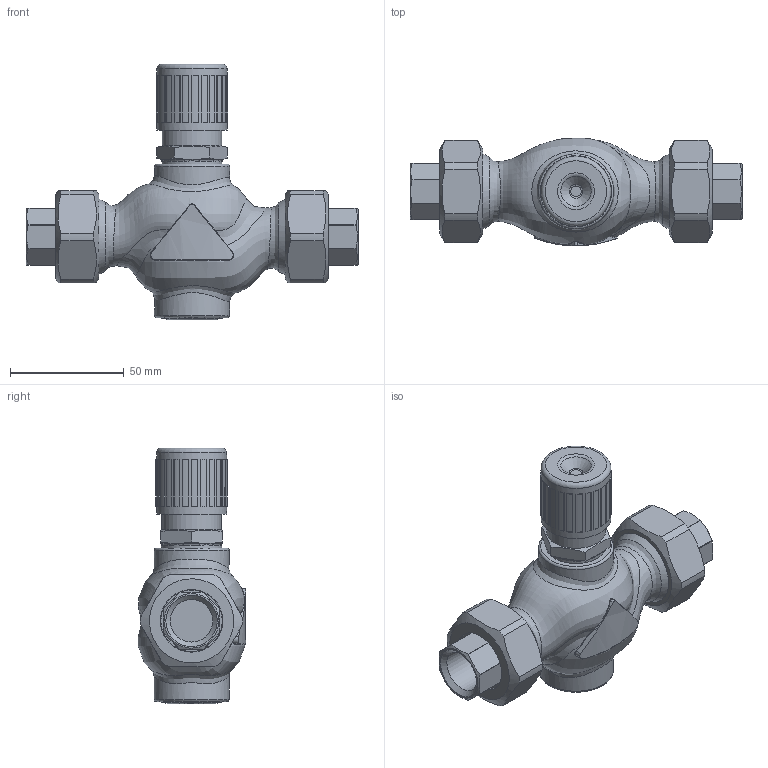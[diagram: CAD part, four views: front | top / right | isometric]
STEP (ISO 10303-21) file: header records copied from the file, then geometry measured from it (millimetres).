
FILE_DESCRIPTION(/* description */ (''),/* implementation_level */ '2;1');
FILE_NAME(/* name */ 'rv111r_dn15_2_T.stp',/* time_stamp */ '2012-02-21T10:52:44+01:00',/* author */ ('KLIMES'),/* organization */ ('LDM'),/* preprocessor_version */ 'ST-DEVELOPER v11',/* originating_system */ 'SIEMENS PLM Software NX 7.0',/* authorisation */ '');
FILE_SCHEMA (('CONFIG_CONTROL_DESIGN'));
Length unit declared in the file: millimetre
Products named in the file (1): klim56BEqbes
Bounding box: 146 x 47.4 x 112.45 mm (x, y, z)
Volume: 207073.5 mm3; surface area: 47398.8 mm2
Topology: 8 solids, 8 shells, 313 faces, 743 edges, 483 vertices
Faces by surface type: plane 180, cone 49, cylinder 43, bspline 27, torus 14
Full cylindrical faces by diameter (mm): 8 x1, 18.631 x2, 21 x2, 21.5 x2, 23.4 x1, 24.117 x1, 26 x1, 26.5 x2, 27 x2, 27.5 x2, 30 x4, 30.291 x2, 30.8 x1, 33 x2, 33.249 x2
Entity records: 14415 total; most frequent: CARTESIAN_POINT 7586, DIRECTION 1384, ORIENTED_EDGE 1302, EDGE_CURVE 651, AXIS2_PLACEMENT_3D 554, VERTEX_POINT 454, EDGE_LOOP 425, ADVANCED_FACE 313
